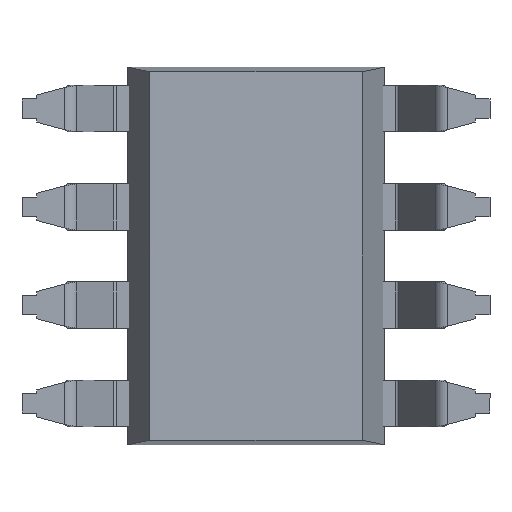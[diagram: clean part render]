
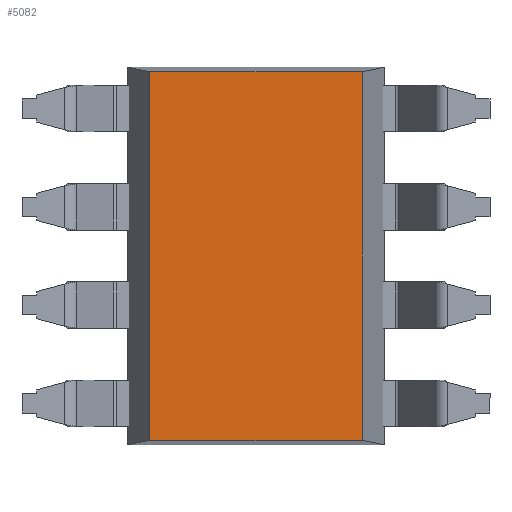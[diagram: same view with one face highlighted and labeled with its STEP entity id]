
A CAD part, front view. The second image highlights one B-rep face of the part: STEP entity #5082.
In plain terms, the highlighted planar face has unit normal (0, -1, 0).
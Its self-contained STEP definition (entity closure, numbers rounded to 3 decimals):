
#162 = DIRECTION ( 'NONE',  ( 1., 0., 0. ) ) ;
#234 = CARTESIAN_POINT ( 'NONE',  ( -2.745, -1.778, -4.761 ) ) ;
#371 = DIRECTION ( 'NONE',  ( 0., 0., -1. ) ) ;
#454 = LINE ( 'NONE', #5928, #4045 ) ;
#775 = CARTESIAN_POINT ( 'NONE',  ( 2.745, -1.778, 4.761 ) ) ;
#787 = VECTOR ( 'NONE', #4994, 1000. ) ;
#950 = AXIS2_PLACEMENT_3D ( 'NONE', #1878, #4988, #371 ) ;
#1164 = VECTOR ( 'NONE', #5237, 1000. ) ;
#1820 = FACE_OUTER_BOUND ( 'NONE', #2858, .T. ) ;
#1846 = CARTESIAN_POINT ( 'NONE',  ( 2.745, -1.778, -4.761 ) ) ;
#1878 = CARTESIAN_POINT ( 'NONE',  ( 0., -1.778, 0. ) ) ;
#1913 = DIRECTION ( 'NONE',  ( 0., 0., 1. ) ) ;
#1930 = VERTEX_POINT ( 'NONE', #234 ) ;
#2639 = ORIENTED_EDGE ( 'NONE', *, *, #4935, .T. ) ;
#2746 = CARTESIAN_POINT ( 'NONE',  ( -2.745, -1.778, 4.761 ) ) ;
#2824 = ORIENTED_EDGE ( 'NONE', *, *, #5456, .F. ) ;
#2858 = EDGE_LOOP ( 'NONE', ( #2824, #5671, #2639, #3537 ) ) ;
#3219 = CARTESIAN_POINT ( 'NONE',  ( -3.322, -1.778, 4.761 ) ) ;
#3537 = ORIENTED_EDGE ( 'NONE', *, *, #5899, .T. ) ;
#3720 = CARTESIAN_POINT ( 'NONE',  ( 2.745, -1.778, -6.215 ) ) ;
#3775 = VERTEX_POINT ( 'NONE', #1846 ) ;
#3992 = CARTESIAN_POINT ( 'NONE',  ( -3.322, -1.778, -4.761 ) ) ;
#4025 = VERTEX_POINT ( 'NONE', #775 ) ;
#4045 = VECTOR ( 'NONE', #1913, 1000. ) ;
#4597 = LINE ( 'NONE', #3219, #6334 ) ;
#4724 = VERTEX_POINT ( 'NONE', #2746 ) ;
#4935 = EDGE_CURVE ( 'NONE', #1930, #3775, #6417, .T. ) ;
#4945 = PLANE ( 'NONE',  #950 ) ;
#4988 = DIRECTION ( 'NONE',  ( 0., -1., 0. ) ) ;
#4994 = DIRECTION ( 'NONE',  ( 1., 0., 0. ) ) ;
#5082 = ADVANCED_FACE ( 'NONE', ( #1820 ), #4945, .T. ) ;
#5144 = EDGE_CURVE ( 'NONE', #1930, #4724, #454, .T. ) ;
#5237 = DIRECTION ( 'NONE',  ( 0., 0., 1. ) ) ;
#5456 = EDGE_CURVE ( 'NONE', #4724, #4025, #4597, .T. ) ;
#5671 = ORIENTED_EDGE ( 'NONE', *, *, #5144, .F. ) ;
#5899 = EDGE_CURVE ( 'NONE', #3775, #4025, #6079, .T. ) ;
#5928 = CARTESIAN_POINT ( 'NONE',  ( -2.745, -1.778, -6.215 ) ) ;
#6079 = LINE ( 'NONE', #3720, #1164 ) ;
#6334 = VECTOR ( 'NONE', #162, 1000. ) ;
#6417 = LINE ( 'NONE', #3992, #787 ) ;
